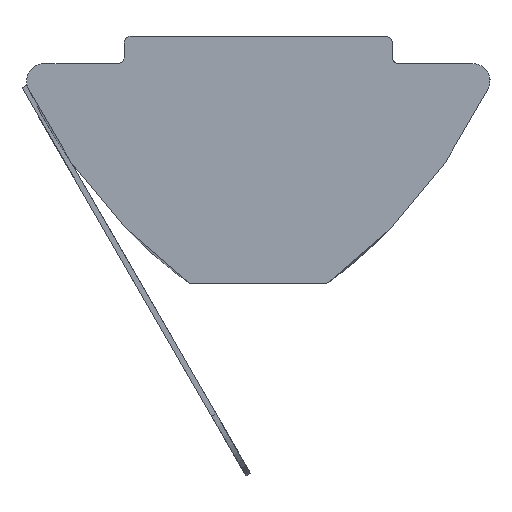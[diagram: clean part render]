
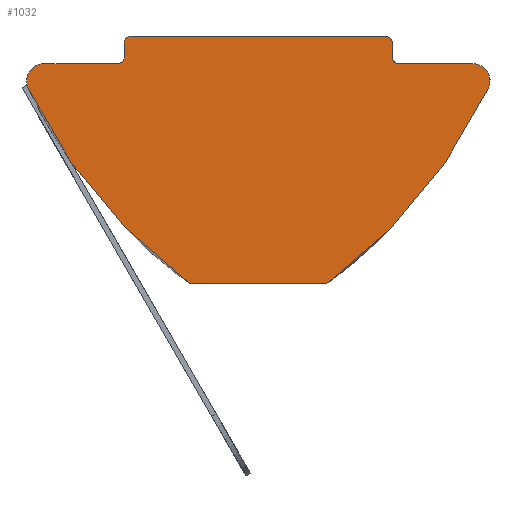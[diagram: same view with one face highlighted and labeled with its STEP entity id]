
A CAD part, left-side view. The second image highlights one B-rep face of the part: STEP entity #1032.
In plain terms, the highlighted planar face has unit normal (-1, 0, 0).
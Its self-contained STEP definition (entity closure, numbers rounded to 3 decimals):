
#15 = EDGE_CURVE ( 'NONE', #796, #787, #377, .T. ) ;
#24 = EDGE_CURVE ( 'NONE', #151, #601, #1396, .T. ) ;
#45 = CARTESIAN_POINT ( 'NONE',  ( -11., -3.9, -0.2 ) ) ;
#85 = EDGE_CURVE ( 'NONE', #460, #659, #613, .T. ) ;
#106 = CARTESIAN_POINT ( 'NONE',  ( -11., -3.7, 0. ) ) ;
#107 = ORIENTED_EDGE ( 'NONE', *, *, #15, .F. ) ;
#114 = VECTOR ( 'NONE', #1614, 1000. ) ;
#123 = DIRECTION ( 'NONE',  ( 0., -1., 0. ) ) ;
#151 = VERTEX_POINT ( 'NONE', #1422 ) ;
#163 = DIRECTION ( 'NONE',  ( 0., 0., 1. ) ) ;
#165 = CARTESIAN_POINT ( 'NONE',  ( -11., 3.9, -0.6 ) ) ;
#173 = CARTESIAN_POINT ( 'NONE',  ( -11., 6.242, -1.305 ) ) ;
#197 = AXIS2_PLACEMENT_3D ( 'NONE', #504, #1171, #767 ) ;
#224 = CIRCLE ( 'NONE', #1204, 0.505 ) ;
#297 = DIRECTION ( 'NONE',  ( 1., 0., 0. ) ) ;
#306 = VECTOR ( 'NONE', #1319, 1000. ) ;
#339 = VECTOR ( 'NONE', #123, 1000. ) ;
#360 = CARTESIAN_POINT ( 'NONE',  ( -11., -3.7, -0.2 ) ) ;
#377 = CIRCLE ( 'NONE', #1359, 15. ) ;
#393 = DIRECTION ( 'NONE',  ( 1., 0., 0. ) ) ;
#394 = DIRECTION ( 'NONE',  ( 1., 0., 0. ) ) ;
#411 = CARTESIAN_POINT ( 'NONE',  ( -11., -3.9, -0.2 ) ) ;
#436 = PLANE ( 'NONE',  #779 ) ;
#444 = ORIENTED_EDGE ( 'NONE', *, *, #1388, .F. ) ;
#451 = CARTESIAN_POINT ( 'NONE',  ( -11., -6.242, -0.8 ) ) ;
#456 = VECTOR ( 'NONE', #1390, 1000. ) ;
#460 = VERTEX_POINT ( 'NONE', #530 ) ;
#468 = CARTESIAN_POINT ( 'NONE',  ( -11., 3.9, -0.6 ) ) ;
#481 = CARTESIAN_POINT ( 'NONE',  ( -11., 3.7, -0.8 ) ) ;
#485 = CARTESIAN_POINT ( 'NONE',  ( -11., -6.698, -1.521 ) ) ;
#503 = DIRECTION ( 'NONE',  ( 1., 0., 0. ) ) ;
#504 = CARTESIAN_POINT ( 'NONE',  ( -11., 4.1, -0.6 ) ) ;
#510 = CIRCLE ( 'NONE', #197, 0.2 ) ;
#514 = AXIS2_PLACEMENT_3D ( 'NONE', #1545, #394, #1404 ) ;
#530 = CARTESIAN_POINT ( 'NONE',  ( -11., 3.9, -0.2 ) ) ;
#559 = ORIENTED_EDGE ( 'NONE', *, *, #85, .F. ) ;
#574 = EDGE_CURVE ( 'NONE', #1111, #601, #510, .T. ) ;
#580 = FACE_OUTER_BOUND ( 'NONE', #1449, .T. ) ;
#582 = DIRECTION ( 'NONE',  ( 1., 0., 0. ) ) ;
#597 = VERTEX_POINT ( 'NONE', #45 ) ;
#601 = VERTEX_POINT ( 'NONE', #817 ) ;
#607 = CARTESIAN_POINT ( 'NONE',  ( -11., -2., -7.2 ) ) ;
#608 = CARTESIAN_POINT ( 'NONE',  ( -11., -6.854, 4.908 ) ) ;
#612 = CARTESIAN_POINT ( 'NONE',  ( -11., 2., -7.2 ) ) ;
#613 = CIRCLE ( 'NONE', #1173, 0.2 ) ;
#621 = CARTESIAN_POINT ( 'NONE',  ( -11., 3.7, 0. ) ) ;
#629 = DIRECTION ( 'NONE',  ( 0., 0., 1. ) ) ;
#633 = CARTESIAN_POINT ( 'NONE',  ( -11., 3.7, -0.2 ) ) ;
#658 = DIRECTION ( 'NONE',  ( 0., 0., 1. ) ) ;
#659 = VERTEX_POINT ( 'NONE', #1456 ) ;
#666 = CARTESIAN_POINT ( 'NONE',  ( -11., 6.854, 4.908 ) ) ;
#678 = CARTESIAN_POINT ( 'NONE',  ( -11., -6.242, -1.305 ) ) ;
#687 = ORIENTED_EDGE ( 'NONE', *, *, #1617, .F. ) ;
#735 = CARTESIAN_POINT ( 'NONE',  ( -11., 6.698, -1.521 ) ) ;
#767 = DIRECTION ( 'NONE',  ( 0., 0., 1. ) ) ;
#779 = AXIS2_PLACEMENT_3D ( 'NONE', #1468, #832, #1454 ) ;
#780 = ORIENTED_EDGE ( 'NONE', *, *, #574, .T. ) ;
#787 = VERTEX_POINT ( 'NONE', #735 ) ;
#796 = VERTEX_POINT ( 'NONE', #612 ) ;
#797 = EDGE_CURVE ( 'NONE', #1143, #597, #968, .T. ) ;
#817 = CARTESIAN_POINT ( 'NONE',  ( -11., 4.1, -0.8 ) ) ;
#831 = ORIENTED_EDGE ( 'NONE', *, *, #1112, .F. ) ;
#832 = DIRECTION ( 'NONE',  ( 1., 0., 0. ) ) ;
#850 = EDGE_CURVE ( 'NONE', #1331, #597, #1273, .T. ) ;
#863 = LINE ( 'NONE', #481, #339 ) ;
#865 = DIRECTION ( 'NONE',  ( 0., 0., 1. ) ) ;
#881 = EDGE_CURVE ( 'NONE', #460, #1111, #1009, .T. ) ;
#883 = DIRECTION ( 'NONE',  ( 0., 0., 1. ) ) ;
#888 = DIRECTION ( 'NONE',  ( 1., 0., 0. ) ) ;
#892 = EDGE_CURVE ( 'NONE', #659, #1143, #1310, .T. ) ;
#899 = EDGE_CURVE ( 'NONE', #1000, #1196, #224, .T. ) ;
#904 = ORIENTED_EDGE ( 'NONE', *, *, #797, .F. ) ;
#926 = ORIENTED_EDGE ( 'NONE', *, *, #892, .F. ) ;
#941 = CIRCLE ( 'NONE', #1124, 0.505 ) ;
#950 = ORIENTED_EDGE ( 'NONE', *, *, #1368, .T. ) ;
#965 = CARTESIAN_POINT ( 'NONE',  ( -11., -4.1, -0.8 ) ) ;
#968 = CIRCLE ( 'NONE', #1232, 0.2 ) ;
#970 = AXIS2_PLACEMENT_3D ( 'NONE', #666, #1535, #658 ) ;
#982 = LINE ( 'NONE', #1483, #306 ) ;
#1000 = VERTEX_POINT ( 'NONE', #451 ) ;
#1009 = LINE ( 'NONE', #165, #456 ) ;
#1022 = VERTEX_POINT ( 'NONE', #965 ) ;
#1031 = ORIENTED_EDGE ( 'NONE', *, *, #24, .F. ) ;
#1032 = ADVANCED_FACE ( 'NONE', ( #580 ), #436, .F. ) ;
#1047 = CIRCLE ( 'NONE', #514, 0.2 ) ;
#1054 = DIRECTION ( 'NONE',  ( 0., -1., 0. ) ) ;
#1109 = CARTESIAN_POINT ( 'NONE',  ( -11., 3.7, -0.8 ) ) ;
#1111 = VERTEX_POINT ( 'NONE', #468 ) ;
#1112 = EDGE_CURVE ( 'NONE', #1632, #796, #982, .T. ) ;
#1121 = DIRECTION ( 'NONE',  ( 0., 0., 1. ) ) ;
#1124 = AXIS2_PLACEMENT_3D ( 'NONE', #173, #297, #163 ) ;
#1143 = VERTEX_POINT ( 'NONE', #106 ) ;
#1153 = ORIENTED_EDGE ( 'NONE', *, *, #850, .T. ) ;
#1158 = CARTESIAN_POINT ( 'NONE',  ( -11., -3.9, -0.6 ) ) ;
#1171 = DIRECTION ( 'NONE',  ( 1., 0., 0. ) ) ;
#1173 = AXIS2_PLACEMENT_3D ( 'NONE', #633, #393, #1174 ) ;
#1174 = DIRECTION ( 'NONE',  ( 0., 0., 1. ) ) ;
#1177 = VECTOR ( 'NONE', #883, 1000. ) ;
#1196 = VERTEX_POINT ( 'NONE', #485 ) ;
#1204 = AXIS2_PLACEMENT_3D ( 'NONE', #678, #503, #629 ) ;
#1232 = AXIS2_PLACEMENT_3D ( 'NONE', #360, #582, #1121 ) ;
#1273 = LINE ( 'NONE', #411, #1177 ) ;
#1283 = CIRCLE ( 'NONE', #970, 15. ) ;
#1310 = LINE ( 'NONE', #621, #1601 ) ;
#1319 = DIRECTION ( 'NONE',  ( 0., 1., 0. ) ) ;
#1326 = EDGE_CURVE ( 'NONE', #787, #151, #941, .T. ) ;
#1331 = VERTEX_POINT ( 'NONE', #1158 ) ;
#1339 = ORIENTED_EDGE ( 'NONE', *, *, #899, .F. ) ;
#1359 = AXIS2_PLACEMENT_3D ( 'NONE', #608, #888, #865 ) ;
#1368 = EDGE_CURVE ( 'NONE', #1022, #1331, #1047, .T. ) ;
#1386 = ORIENTED_EDGE ( 'NONE', *, *, #881, .T. ) ;
#1388 = EDGE_CURVE ( 'NONE', #1196, #1632, #1283, .T. ) ;
#1390 = DIRECTION ( 'NONE',  ( 0., 0., -1. ) ) ;
#1396 = LINE ( 'NONE', #1109, #114 ) ;
#1404 = DIRECTION ( 'NONE',  ( 0., 0., 1. ) ) ;
#1422 = CARTESIAN_POINT ( 'NONE',  ( -11., 6.242, -0.8 ) ) ;
#1449 = EDGE_LOOP ( 'NONE', ( #1386, #780, #1031, #1529, #107, #831, #444, #1339, #687, #950, #1153, #904, #926, #559 ) ) ;
#1454 = DIRECTION ( 'NONE',  ( 0., 0., -1. ) ) ;
#1456 = CARTESIAN_POINT ( 'NONE',  ( -11., 3.7, 0. ) ) ;
#1468 = CARTESIAN_POINT ( 'NONE',  ( -11., 3.7, -0.2 ) ) ;
#1483 = CARTESIAN_POINT ( 'NONE',  ( -11., 3.7, -7.2 ) ) ;
#1529 = ORIENTED_EDGE ( 'NONE', *, *, #1326, .F. ) ;
#1535 = DIRECTION ( 'NONE',  ( 1., 0., 0. ) ) ;
#1545 = CARTESIAN_POINT ( 'NONE',  ( -11., -4.1, -0.6 ) ) ;
#1601 = VECTOR ( 'NONE', #1054, 1000. ) ;
#1614 = DIRECTION ( 'NONE',  ( 0., -1., 0. ) ) ;
#1617 = EDGE_CURVE ( 'NONE', #1022, #1000, #863, .T. ) ;
#1632 = VERTEX_POINT ( 'NONE', #607 ) ;
